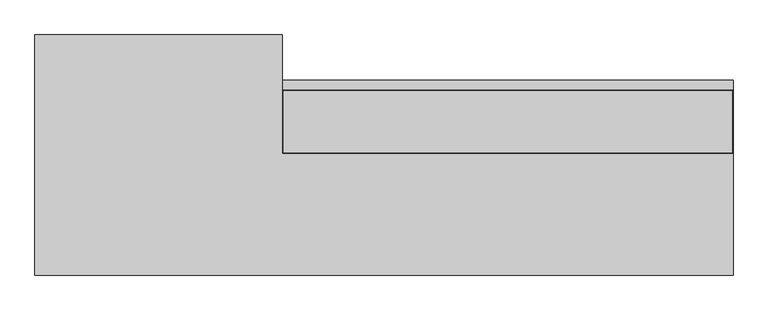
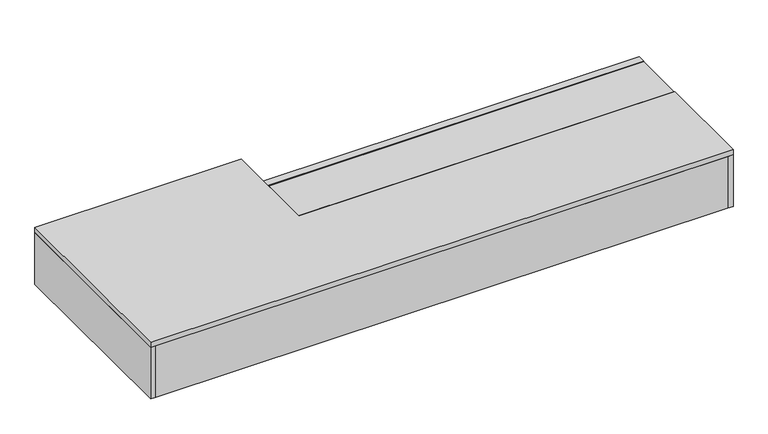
"""IFC4 building model written with IfcOpenShell, lengths in millimetres: proxy geometry, BASYS^OFFICE 7_WIRE WALL_PARTS SOLID."""

from ifc_helpers import new_model, si_unit, frame, origin, place, context, project, spatial, polyline, outline, extrude, faceted_brep, source, transform, mapped, element, save


def generic_models_ab5d6a62(model_context):
    return source(origin(), model_context, "Body", "SolidModel", [
        faceted_brep([(723.9, 165.1, -196.85), (723.9, -523.875, -196.85), (723.9, -523.875, -19.05), (723.9, 165.1, -19.05), (742.95, -523.875, -196.85), (742.95, -523.875, -19.05), (742.95, 165.1, -196.85), (742.95, -191.690625, -19.05), (2095.5, -191.690625, -19.05), (2095.5, -555.625, -19.05), (0.0, -555.625, -19.05), (0.0, 165.1, -19.05), (742.95, -191.690625, 0.0), (742.95, 165.1, 0.0), (0.0, 165.1, 0.0), (0.0, -555.625, 0.0), (2095.5, -191.690625, 0.0), (2095.5, -555.625, 0.0)], [[[0, 1, 2, 3]], [[1, 4, 5, 2]], [[0, 6, 4, 1]], [[3, 2, 5, 7, 8, 9, 10, 11]], [[12, 7, 5, 4, 6, 13]], [[14, 13, 6, 0, 3, 11]], [[11, 10, 15, 14]], [[7, 12, 16, 8]], [[9, 8, 16, 17]], [[10, 9, 17, 15]], [[15, 17, 16, 12, 13, 14]]]),
        extrude(outline(polyline([(745.33125, -189.309375), (745.33125, -3.175), (2093.11875, -3.175), (2093.11875, -189.309375), (745.33125, -189.309375)])), frame((0.0, 0.0, -19.05), z_axis=(0.0, 0.0, 1.0), x_axis=(1.0, 0.0, 0.0)), (0.0, 0.0, 1.0), 19.05),
        extrude(outline(polyline([(2076.45, -555.625), (19.05, -555.625), (19.05, -523.875), (2076.45, -523.875), (2076.45, -555.625)])), frame((0.0, 0.0, -215.9), z_axis=(0.0, 0.0, 1.0), x_axis=(1.0, 0.0, 0.0)), (0.0, 0.0, 1.0), 196.85),
        extrude(outline(polyline([(19.05, 165.1), (19.05, -555.625), (0.0, -555.625), (0.0, 165.1), (19.05, 165.1)])), frame((0.0, 0.0, -215.9), z_axis=(0.0, 0.0, 1.0), x_axis=(1.0, 0.0, 0.0)), (0.0, 0.0, 1.0), 196.85),
        extrude(outline(polyline([(2076.45, -523.875), (19.05, -523.875), (19.05, -250.825), (2076.45, -250.825), (2076.45, -523.875)])), frame((0.0, 0.0, -215.9), z_axis=(0.0, 0.0, 1.0), x_axis=(1.0, 0.0, 0.0)), (0.0, 0.0, 1.0), 19.05),
        extrude(outline(polyline([(742.95, 0.0), (742.95, 28.575), (2095.5, 28.575), (2095.5, 0.0), (742.95, 0.0)])), frame((0.0, 0.0, -215.9), z_axis=(0.0, 0.0, 1.0), x_axis=(1.0, 0.0, 0.0)), (0.0, 0.0, 1.0), 215.9),
        extrude(outline(polyline([(2076.45, 0.0), (2095.5, 0.0), (2095.5, -555.625), (2076.45, -555.625), (2076.45, 0.0)])), frame((0.0, 0.0, -215.9), z_axis=(0.0, 0.0, 1.0), x_axis=(1.0, 0.0, 0.0)), (0.0, 0.0, 1.0), 196.85),
    ])


if __name__ == "__main__":
    model = new_model("IFC4")
    model_context = context("Model", 3, world=origin())
    ifc_project = project(units=[si_unit("LENGTHUNIT", "METRE", prefix="MILLI")], contexts=[model_context])
    site = spatial("IfcSite", under=ifc_project)
    building = spatial("IfcBuilding", under=site)
    placement = place(None, origin())
    generic_models_shape = generic_models_ab5d6a62(model_context)
    element("IfcBuildingElementProxy", 1, Name="BASYS^OFFICE 7_WIRE WALL_PARTS SOLID", ObjectType="BASYS^OFFICE 7_WIRE WALL_PARTS SOLID", at=placement, inside=building, context=model_context, shape_type="MappedRepresentation", body=[
        mapped(generic_models_shape, transform((0.0, 0.0, 0.0), x_axis=(1.0, 0.0, 0.0), y_axis=(0.0, 1.0, 0.0), z_axis=(0.0, 0.0, 1.0))),
    ])
    save(model, "model.ifc")
